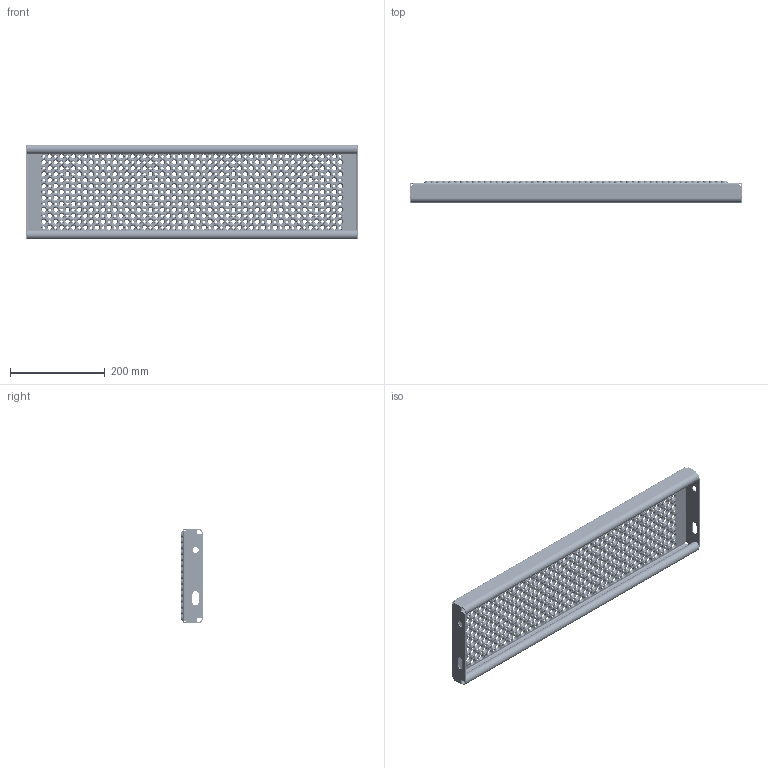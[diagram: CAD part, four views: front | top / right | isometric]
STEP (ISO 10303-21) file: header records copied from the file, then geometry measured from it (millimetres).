
FILE_DESCRIPTION (( 'STEP AP214' ), '1' );
FILE_NAME ('OPTIMO-Tread-Achil-O2-700x200x45x2-st240-F100110100.STEP', '2021-03-15T09:39:22', ( '' ), ( '' ), 'SwSTEP 2.0', 'SolidWorks 2021', '' );
FILE_SCHEMA (( 'AUTOMOTIVE_DESIGN' ));
Products named in the file (1): OPTIMO-Tread-Achil-O2-700x200x45x2-st240-F100110100
Bounding box: 700 x 45 x 200 mm (x, y, z)
Volume: 526609.1 mm3; surface area: 568821.5 mm2
Topology: 1 solids, 1 shells, 7732 faces, 20090 edges, 12360 vertices
Faces by surface type: cone 4590, torus 3060, plane 38, cylinder 36, bspline 8
Entity records: 246184 total; most frequent: DIRECTION 50864, CARTESIAN_POINT 40775, ORIENTED_EDGE 40180, AXIS2_PLACEMENT_3D 23081, EDGE_CURVE 20090, CIRCLE 15356, VERTEX_POINT 12360, EDGE_LOOP 9270
